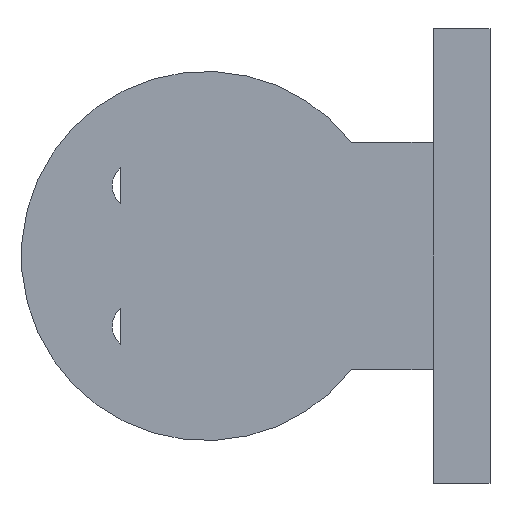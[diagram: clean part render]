
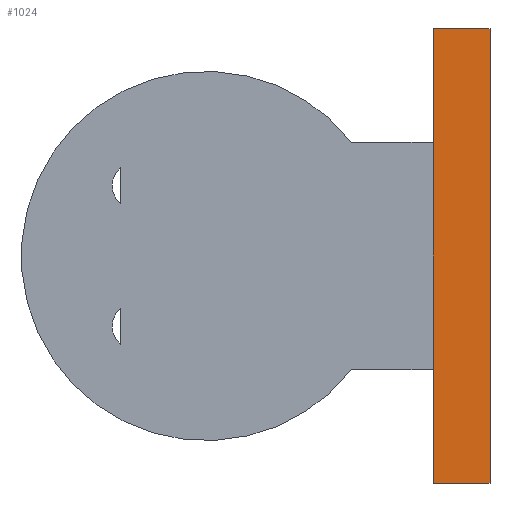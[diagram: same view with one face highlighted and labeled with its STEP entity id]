
A CAD part, front view. The second image highlights one B-rep face of the part: STEP entity #1024.
In plain terms, the highlighted planar face has unit normal (0, -1, 0).
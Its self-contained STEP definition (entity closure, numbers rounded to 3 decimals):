
#100 = PLANE('',#101);
#101 = AXIS2_PLACEMENT_3D('',#102,#103,#104);
#102 = CARTESIAN_POINT('',(16.,-40.,-16.));
#103 = DIRECTION('',(1.,0.,0.));
#104 = DIRECTION('',(0.,0.,1.));
#382 = EDGE_CURVE('',#383,#385,#387,.T.);
#383 = VERTEX_POINT('',#384);
#384 = CARTESIAN_POINT('',(16.,-40.,-16.));
#385 = VERTEX_POINT('',#386);
#386 = CARTESIAN_POINT('',(16.,-40.,16.));
#387 = SURFACE_CURVE('',#388,(#392,#399),.PCURVE_S1.);
#388 = LINE('',#389,#390);
#389 = CARTESIAN_POINT('',(16.,-40.,-16.));
#390 = VECTOR('',#391,1.);
#391 = DIRECTION('',(0.,0.,1.));
#392 = PCURVE('',#100,#393);
#393 = DEFINITIONAL_REPRESENTATION('',(#394),#398);
#394 = LINE('',#395,#396);
#395 = CARTESIAN_POINT('',(0.,0.));
#396 = VECTOR('',#397,1.);
#397 = DIRECTION('',(1.,0.));
#398 = ( GEOMETRIC_REPRESENTATION_CONTEXT(2) 
PARAMETRIC_REPRESENTATION_CONTEXT() REPRESENTATION_CONTEXT('2D SPACE',''
  ) );
#399 = PCURVE('',#400,#405);
#400 = PLANE('',#401);
#401 = AXIS2_PLACEMENT_3D('',#402,#403,#404);
#402 = CARTESIAN_POINT('',(16.,-40.,-16.));
#403 = DIRECTION('',(0.,1.,0.));
#404 = DIRECTION('',(0.,0.,1.));
#405 = DEFINITIONAL_REPRESENTATION('',(#406),#410);
#406 = LINE('',#407,#408);
#407 = CARTESIAN_POINT('',(0.,0.));
#408 = VECTOR('',#409,1.);
#409 = DIRECTION('',(1.,0.));
#410 = ( GEOMETRIC_REPRESENTATION_CONTEXT(2) 
PARAMETRIC_REPRESENTATION_CONTEXT() REPRESENTATION_CONTEXT('2D SPACE',''
  ) );
#428 = PLANE('',#429);
#429 = AXIS2_PLACEMENT_3D('',#430,#431,#432);
#430 = CARTESIAN_POINT('',(16.,-40.,-16.));
#431 = DIRECTION('',(0.,0.,1.));
#432 = DIRECTION('',(1.,0.,0.));
#482 = PLANE('',#483);
#483 = AXIS2_PLACEMENT_3D('',#484,#485,#486);
#484 = CARTESIAN_POINT('',(16.,-40.,16.));
#485 = DIRECTION('',(0.,0.,1.));
#486 = DIRECTION('',(1.,0.,0.));
#1024 = ADVANCED_FACE('',(#1025),#400,.F.);
#1025 = FACE_BOUND('',#1026,.F.);
#1026 = EDGE_LOOP('',(#1027,#1050,#1051,#1074));
#1027 = ORIENTED_EDGE('',*,*,#1028,.F.);
#1028 = EDGE_CURVE('',#383,#1029,#1031,.T.);
#1029 = VERTEX_POINT('',#1030);
#1030 = CARTESIAN_POINT('',(20.,-40.,-16.));
#1031 = SURFACE_CURVE('',#1032,(#1036,#1043),.PCURVE_S1.);
#1032 = LINE('',#1033,#1034);
#1033 = CARTESIAN_POINT('',(16.,-40.,-16.));
#1034 = VECTOR('',#1035,1.);
#1035 = DIRECTION('',(1.,0.,0.));
#1036 = PCURVE('',#400,#1037);
#1037 = DEFINITIONAL_REPRESENTATION('',(#1038),#1042);
#1038 = LINE('',#1039,#1040);
#1039 = CARTESIAN_POINT('',(0.,0.));
#1040 = VECTOR('',#1041,1.);
#1041 = DIRECTION('',(0.,1.));
#1042 = ( GEOMETRIC_REPRESENTATION_CONTEXT(2) 
PARAMETRIC_REPRESENTATION_CONTEXT() REPRESENTATION_CONTEXT('2D SPACE',''
  ) );
#1043 = PCURVE('',#428,#1044);
#1044 = DEFINITIONAL_REPRESENTATION('',(#1045),#1049);
#1045 = LINE('',#1046,#1047);
#1046 = CARTESIAN_POINT('',(0.,0.));
#1047 = VECTOR('',#1048,1.);
#1048 = DIRECTION('',(1.,0.));
#1049 = ( GEOMETRIC_REPRESENTATION_CONTEXT(2) 
PARAMETRIC_REPRESENTATION_CONTEXT() REPRESENTATION_CONTEXT('2D SPACE',''
  ) );
#1050 = ORIENTED_EDGE('',*,*,#382,.T.);
#1051 = ORIENTED_EDGE('',*,*,#1052,.T.);
#1052 = EDGE_CURVE('',#385,#1053,#1055,.T.);
#1053 = VERTEX_POINT('',#1054);
#1054 = CARTESIAN_POINT('',(20.,-40.,16.));
#1055 = SURFACE_CURVE('',#1056,(#1060,#1067),.PCURVE_S1.);
#1056 = LINE('',#1057,#1058);
#1057 = CARTESIAN_POINT('',(16.,-40.,16.));
#1058 = VECTOR('',#1059,1.);
#1059 = DIRECTION('',(1.,0.,0.));
#1060 = PCURVE('',#400,#1061);
#1061 = DEFINITIONAL_REPRESENTATION('',(#1062),#1066);
#1062 = LINE('',#1063,#1064);
#1063 = CARTESIAN_POINT('',(32.,0.));
#1064 = VECTOR('',#1065,1.);
#1065 = DIRECTION('',(0.,1.));
#1066 = ( GEOMETRIC_REPRESENTATION_CONTEXT(2) 
PARAMETRIC_REPRESENTATION_CONTEXT() REPRESENTATION_CONTEXT('2D SPACE',''
  ) );
#1067 = PCURVE('',#482,#1068);
#1068 = DEFINITIONAL_REPRESENTATION('',(#1069),#1073);
#1069 = LINE('',#1070,#1071);
#1070 = CARTESIAN_POINT('',(0.,0.));
#1071 = VECTOR('',#1072,1.);
#1072 = DIRECTION('',(1.,0.));
#1073 = ( GEOMETRIC_REPRESENTATION_CONTEXT(2) 
PARAMETRIC_REPRESENTATION_CONTEXT() REPRESENTATION_CONTEXT('2D SPACE',''
  ) );
#1074 = ORIENTED_EDGE('',*,*,#1075,.F.);
#1075 = EDGE_CURVE('',#1029,#1053,#1076,.T.);
#1076 = SURFACE_CURVE('',#1077,(#1081,#1088),.PCURVE_S1.);
#1077 = LINE('',#1078,#1079);
#1078 = CARTESIAN_POINT('',(20.,-40.,-16.));
#1079 = VECTOR('',#1080,1.);
#1080 = DIRECTION('',(0.,0.,1.));
#1081 = PCURVE('',#400,#1082);
#1082 = DEFINITIONAL_REPRESENTATION('',(#1083),#1087);
#1083 = LINE('',#1084,#1085);
#1084 = CARTESIAN_POINT('',(0.,4.));
#1085 = VECTOR('',#1086,1.);
#1086 = DIRECTION('',(1.,0.));
#1087 = ( GEOMETRIC_REPRESENTATION_CONTEXT(2) 
PARAMETRIC_REPRESENTATION_CONTEXT() REPRESENTATION_CONTEXT('2D SPACE',''
  ) );
#1088 = PCURVE('',#1089,#1094);
#1089 = PLANE('',#1090);
#1090 = AXIS2_PLACEMENT_3D('',#1091,#1092,#1093);
#1091 = CARTESIAN_POINT('',(20.,-40.,-16.));
#1092 = DIRECTION('',(1.,0.,0.));
#1093 = DIRECTION('',(0.,0.,1.));
#1094 = DEFINITIONAL_REPRESENTATION('',(#1095),#1099);
#1095 = LINE('',#1096,#1097);
#1096 = CARTESIAN_POINT('',(0.,0.));
#1097 = VECTOR('',#1098,1.);
#1098 = DIRECTION('',(1.,0.));
#1099 = ( GEOMETRIC_REPRESENTATION_CONTEXT(2) 
PARAMETRIC_REPRESENTATION_CONTEXT() REPRESENTATION_CONTEXT('2D SPACE',''
  ) );
